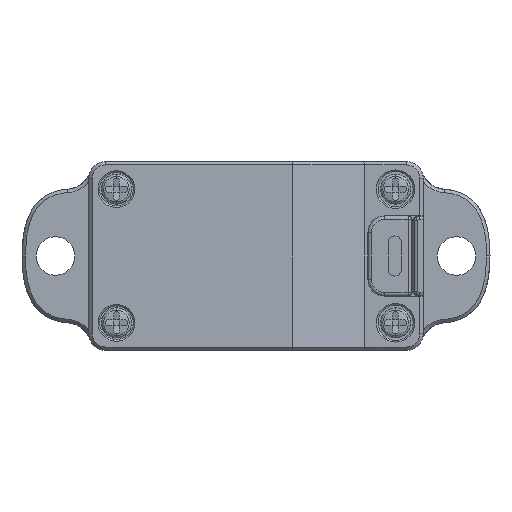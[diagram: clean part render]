
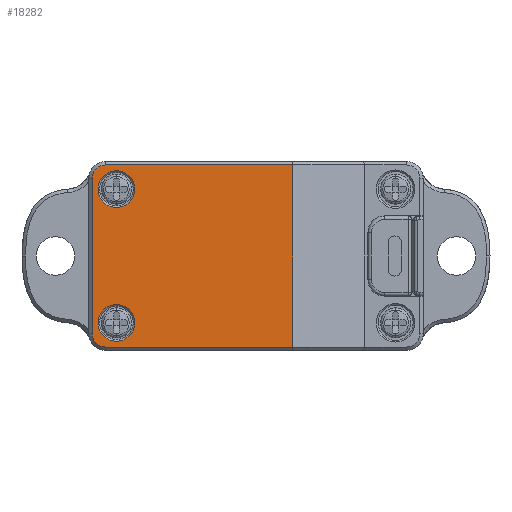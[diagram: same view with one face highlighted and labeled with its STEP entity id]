
A CAD part, front view. The second image highlights one B-rep face of the part: STEP entity #18282.
In plain terms, the highlighted planar face has unit normal (0, -1, 0).
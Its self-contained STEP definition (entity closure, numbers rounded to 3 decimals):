
#6308=DIRECTION('',(0.,0.,1.));
#6309=VECTOR('',#6308,10.9);
#6310=CARTESIAN_POINT('',(2.2,-11.2,
-5.45));
#6311=LINE('',#6310,#6309);
#6337=DIRECTION('',(-1.,0.,0.));
#6338=VECTOR('',#6337,11.2);
#6339=CARTESIAN_POINT('',(2.2,-11.2,
-5.45));
#6340=LINE('',#6339,#6338);
#6341=CARTESIAN_POINT('',(-9.,-11.2,-4.65));
#6342=DIRECTION('',(0.,1.,0.));
#6343=DIRECTION('',(0.,0.,-1.));
#6344=AXIS2_PLACEMENT_3D('',#6341,#6342,#6343);
#6346=DIRECTION('',(0.,0.,1.));
#6347=VECTOR('',#6346,9.3);
#6348=CARTESIAN_POINT('',(-9.8,-11.2,
-4.65));
#6349=LINE('',#6348,#6347);
#6350=CARTESIAN_POINT('',(-9.,-11.2,4.65));
#6351=DIRECTION('',(0.,1.,0.));
#6352=DIRECTION('',(-1.,0.,0.));
#6353=AXIS2_PLACEMENT_3D('',#6350,#6351,#6352);
#6355=DIRECTION('',(1.,0.,0.));
#6356=VECTOR('',#6355,11.2);
#6357=CARTESIAN_POINT('',(-9.,-11.2,
5.45));
#6358=LINE('',#6357,#6356);
#6380=CARTESIAN_POINT('',(-8.35,-11.2,-4.));
#6381=DIRECTION('',(0.,1.,0.));
#6382=DIRECTION('',(1.,0.,0.));
#6383=AXIS2_PLACEMENT_3D('',#6380,#6381,#6382);
#6394=CARTESIAN_POINT('',(-8.35,-11.2,-4.));
#6395=DIRECTION('',(0.,1.,0.));
#6396=DIRECTION('',(-1.,0.,0.));
#6397=AXIS2_PLACEMENT_3D('',#6394,#6395,#6396);
#6934=CARTESIAN_POINT('',(-8.35,-11.2,4.));
#6935=DIRECTION('',(0.,1.,0.));
#6936=DIRECTION('',(1.,0.,0.));
#6937=AXIS2_PLACEMENT_3D('',#6934,#6935,#6936);
#6943=CARTESIAN_POINT('',(-8.35,-11.2,4.));
#6944=DIRECTION('',(0.,1.,0.));
#6945=DIRECTION('',(-1.,0.,0.));
#6946=AXIS2_PLACEMENT_3D('',#6943,#6944,#6945);
#9694=CARTESIAN_POINT('',(2.2,-11.2,5.45));
#9695=VERTEX_POINT('',#9694);
#9696=CARTESIAN_POINT('',(2.2,-11.2,
-5.45));
#9697=VERTEX_POINT('',#9696);
#9702=CARTESIAN_POINT('',(-9.,-11.2,
-5.45));
#9703=VERTEX_POINT('',#9702);
#9704=CARTESIAN_POINT('',(-9.8,-11.2,-4.65));
#9705=VERTEX_POINT('',#9704);
#9708=CARTESIAN_POINT('',(-9.8,-11.2,
4.65));
#9709=VERTEX_POINT('',#9708);
#9710=CARTESIAN_POINT('',(-9.,-11.2,5.45));
#9711=VERTEX_POINT('',#9710);
#9715=CARTESIAN_POINT('',(-9.45,-11.2,-4.));
#9717=VERTEX_POINT('',#9715);
#9719=CARTESIAN_POINT('',(-7.25,-11.2,-4.));
#9721=VERTEX_POINT('',#9719);
#9742=CARTESIAN_POINT('',(-7.25,-11.2,4.));
#9743=VERTEX_POINT('',#9742);
#9744=CARTESIAN_POINT('',(-9.45,-11.2,4.));
#9745=VERTEX_POINT('',#9744);
#18254=CARTESIAN_POINT('',(0.,-11.2,0.));
#18255=DIRECTION('',(0.,1.,0.));
#18256=DIRECTION('',(1.,0.,0.));
#18257=AXIS2_PLACEMENT_3D('',#18254,#18255,#18256);
#18258=PLANE('',#18257);
#18259=ORIENTED_EDGE('',*,*,#18234,.T.);
#18260=ORIENTED_EDGE('',*,*,#18245,.T.);
#18262=ORIENTED_EDGE('',*,*,#18261,.T.);
#18264=ORIENTED_EDGE('',*,*,#18263,.T.);
#18266=ORIENTED_EDGE('',*,*,#18265,.T.);
#18267=ORIENTED_EDGE('',*,*,#18207,.F.);
#18268=EDGE_LOOP('',(#18259,#18260,#18262,#18264,#18266,#18267));
#18269=FACE_OUTER_BOUND('',#18268,.F.);
#18271=ORIENTED_EDGE('',*,*,#18270,.F.);
#18273=ORIENTED_EDGE('',*,*,#18272,.F.);
#18274=EDGE_LOOP('',(#18271,#18273));
#18275=FACE_BOUND('',#18274,.F.);
#18277=ORIENTED_EDGE('',*,*,#18276,.F.);
#18279=ORIENTED_EDGE('',*,*,#18278,.F.);
#18280=EDGE_LOOP('',(#18277,#18279));
#18281=FACE_BOUND('',#18280,.F.);
#6345=CIRCLE('',#6344,0.8);
#6354=CIRCLE('',#6353,0.8);
#6384=CIRCLE('',#6383,1.1);
#6398=CIRCLE('',#6397,1.1);
#6938=CIRCLE('',#6937,1.1);
#6947=CIRCLE('',#6946,1.1);
#18207=EDGE_CURVE('',#9697,#9695,#6311,.T.);
#18234=EDGE_CURVE('',#9697,#9703,#6340,.T.);
#18245=EDGE_CURVE('',#9703,#9705,#6345,.T.);
#18261=EDGE_CURVE('',#9705,#9709,#6349,.T.);
#18263=EDGE_CURVE('',#9709,#9711,#6354,.T.);
#18265=EDGE_CURVE('',#9711,#9695,#6358,.T.);
#18270=EDGE_CURVE('',#9721,#9717,#6384,.T.);
#18272=EDGE_CURVE('',#9717,#9721,#6398,.T.);
#18276=EDGE_CURVE('',#9743,#9745,#6938,.T.);
#18278=EDGE_CURVE('',#9745,#9743,#6947,.T.);
#18282=ADVANCED_FACE('',(#18269,#18275,#18281),#18258,.F.);
